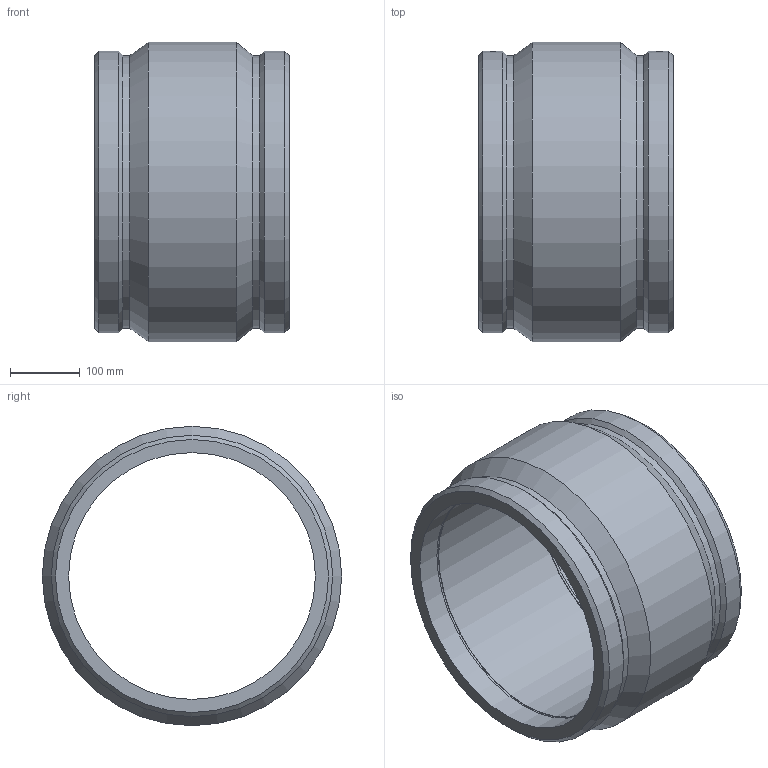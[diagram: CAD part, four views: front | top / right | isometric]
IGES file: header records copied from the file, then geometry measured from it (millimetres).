
Global section: file name: 5901B003140.ipt; native system: Autodesk Inventor 2019; preprocessor: unknown; author: KIM; date: 20210830.100845; units: inch
Bounding box: 279.4 x 429.26 x 429.26 mm (x, y, z)
Volume: 10315597.9 mm3; surface area: 750002.1 mm2
Topology: 1 solids, 1 shells, 32 faces, 70 edges, 46 vertices
Faces by surface type: plane 10, cone 8, cylinder 7, revolution 7
Full cylindrical faces by diameter (mm): 4 x2, 391.399 x2, 403.504 x2, 429.26 x1
